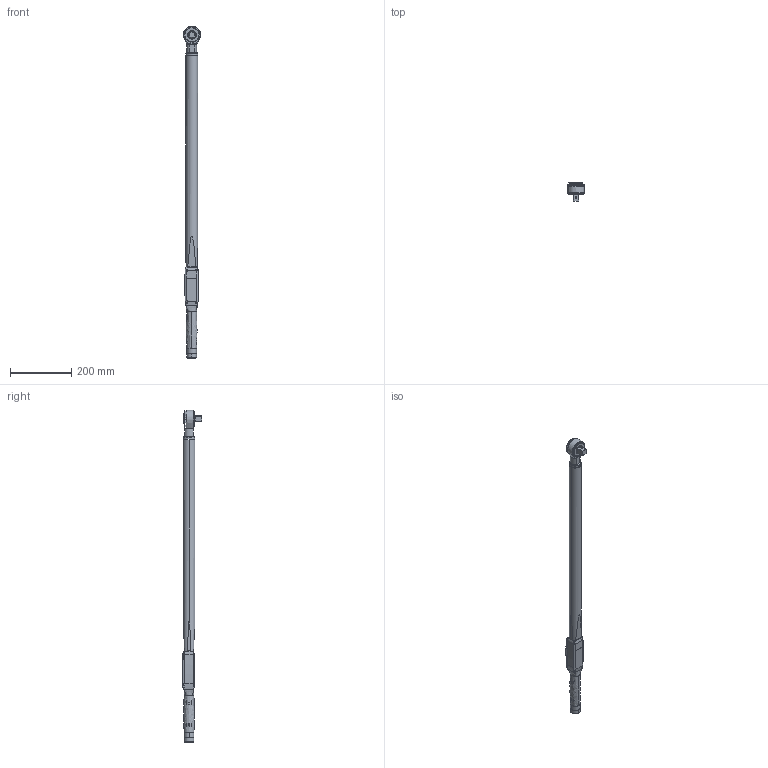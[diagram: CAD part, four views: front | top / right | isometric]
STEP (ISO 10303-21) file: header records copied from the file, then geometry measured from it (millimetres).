
FILE_DESCRIPTION((''),'2;1');
FILE_NAME('6159352130_DIM','2021-06-28T09:03:18',('S00000450'),(''),'CREO PARAMETRIC BY PTC INC, 2021072','CREO PARAMETRIC BY PTC INC, 2021072','');
FILE_SCHEMA(('AP242_MANAGED_MODEL_BASED_3D_ENGINEERING_MIM_LF { 1 0 10303 442 1 1 4 }'));
Length unit declared in the file: millimetre
Products named in the file (1): 6159352130_DIM
Bounding box: 56.56 x 63.55 x 1088.42 mm (x, y, z)
Surface area: 149129 mm2 (no closed solid volume)
Topology: 0 solids, 262 shells, 381 faces, 2018 edges, 1889 vertices
Faces by surface type: plane 229, bspline 67, cylinder 43, cone 22, torus 12, extrusion 8
Entity records: 29499 total; most frequent: CARTESIAN_POINT 13594, ORIENTED_EDGE 2224, DIRECTION 2050, EDGE_CURVE 2018, VERTEX_POINT 1889, B_SPLINE_CURVE_WITH_KNOTS 1008, AXIS2_PLACEMENT_3D 718, VECTOR 614
